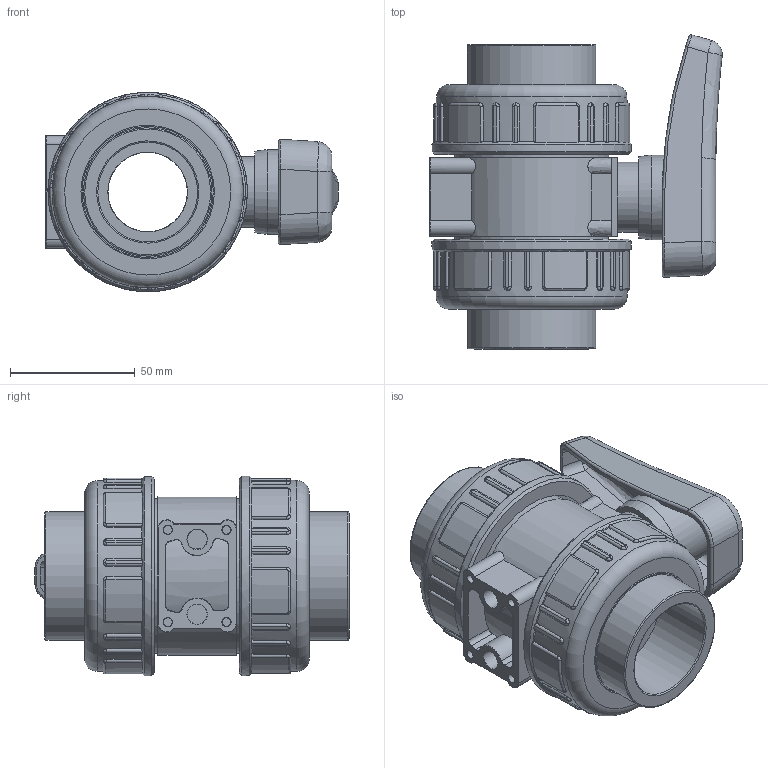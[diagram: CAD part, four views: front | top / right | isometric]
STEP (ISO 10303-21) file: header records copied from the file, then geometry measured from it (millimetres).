
FILE_DESCRIPTION(/* description */ (''),/* implementation_level */ '2;1');
FILE_NAME(/* name */ 'C:\Users\POLYPIPE\Desktop\DATASET INVENTOR\LIBRERIA EFFAST\3D_VALVOLE\3D_VALVOLE A SFERA\3D_BK1\3D_BDRBK1D\3D_BDRBK1D0400.stp',/* time_stamp */ '2018-01-23T15:31:35+01:00',/* author */ ('POLYPIPE'),/* organization */ (''),/* preprocessor_version */ 'ST-DEVELOPER v16.1',/* originating_system */ 'Autodesk Inventor 2016',/* authorisation */ '');
FILE_SCHEMA (('CONFIG_CONTROL_DESIGN'));
Length unit declared in the file: centimetre
Products named in the file (1): 3D_BDRBK1D0400
Bounding box: 117.24 x 125.9 x 79.99 mm (x, y, z)
Volume: 343642.9 mm3; surface area: 103908.2 mm2
Topology: 3 solids, 4 shells, 620 faces, 1558 edges, 975 vertices
Faces by surface type: cylinder 208, plane 197, bspline 162, torus 40, cone 9, sphere 4
Full cylindrical faces by diameter (mm): 3 x4, 3.5 x4, 8 x2, 18.1 x1, 28.1 x1, 31.8 x1, 32 x2, 34 x1, 35.3 x1, 40 x2, 47 x1, 51 x1, 51.5 x2, 52.6 x2, 53.5 x2, 59.7 x2, 61.8 x2, 65.6 x2, 76.6 x2, 80 x2
Entity records: 63615 total; most frequent: CARTESIAN_POINT 49164, ORIENTED_EDGE 2976, DIRECTION 2618, EDGE_CURVE 1485, AXIS2_PLACEMENT_3D 1025, VERTEX_POINT 958, EDGE_LOOP 714, STYLED_ITEM 623
